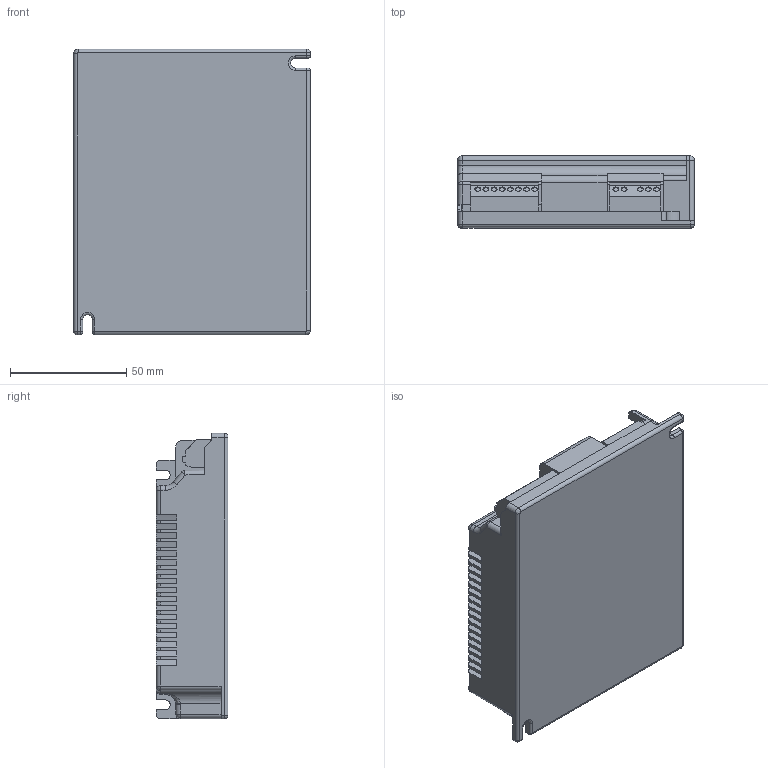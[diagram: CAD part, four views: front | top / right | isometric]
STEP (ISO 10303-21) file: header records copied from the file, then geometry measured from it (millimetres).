
FILE_DESCRIPTION((''),'2;1');
FILE_NAME('15006771Z','2011-11-15T',('juergen.hrach'),(''),'PRO/ENGINEER BY PARAMETRIC TECHNOLOGY CORPORATION, 2010480','PRO/ENGINEER BY PARAMETRIC TECHNOLOGY CORPORATION, 2010480','');
FILE_SCHEMA(('AUTOMOTIVE_DESIGN { 1 2 10303 214 0 1 1 1 }'));
Length unit declared in the file: millimetre
Products named in the file (1): 15006771Z
Bounding box: 102 x 31 x 123 mm (x, y, z)
Volume: 339031.9 mm3; surface area: 43842.6 mm2
Topology: 1 solids, 1 shells, 472 faces, 1268 edges, 827 vertices
Faces by surface type: plane 211, cylinder 154, extrusion 86, sphere 9, bspline 7, torus 5
Entity records: 23451 total; most frequent: CARTESIAN_POINT 3636, ORIENTED_EDGE 2536, DIRECTION 2260, PRESENTATION_STYLE_ASSIGNMENT 1629, STYLED_ITEM 1306, CURVE_STYLE 1268, EDGE_CURVE 1268, VECTOR 856
